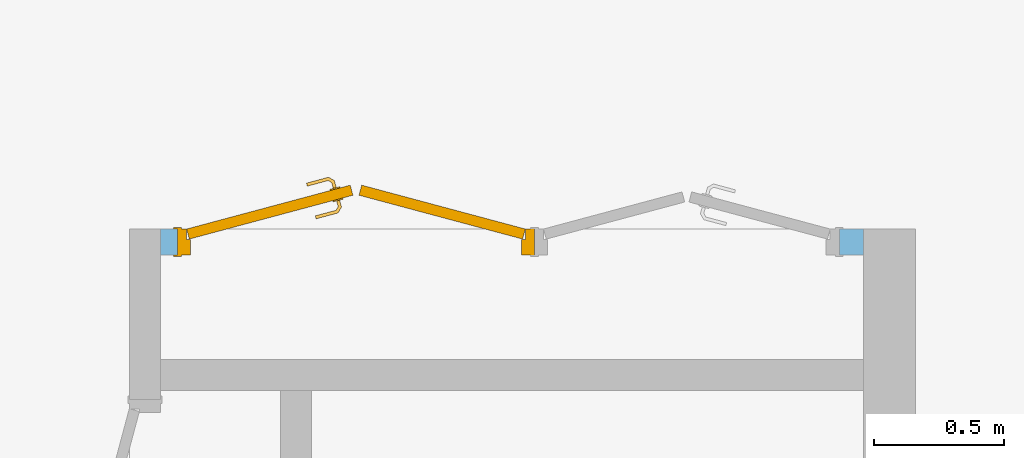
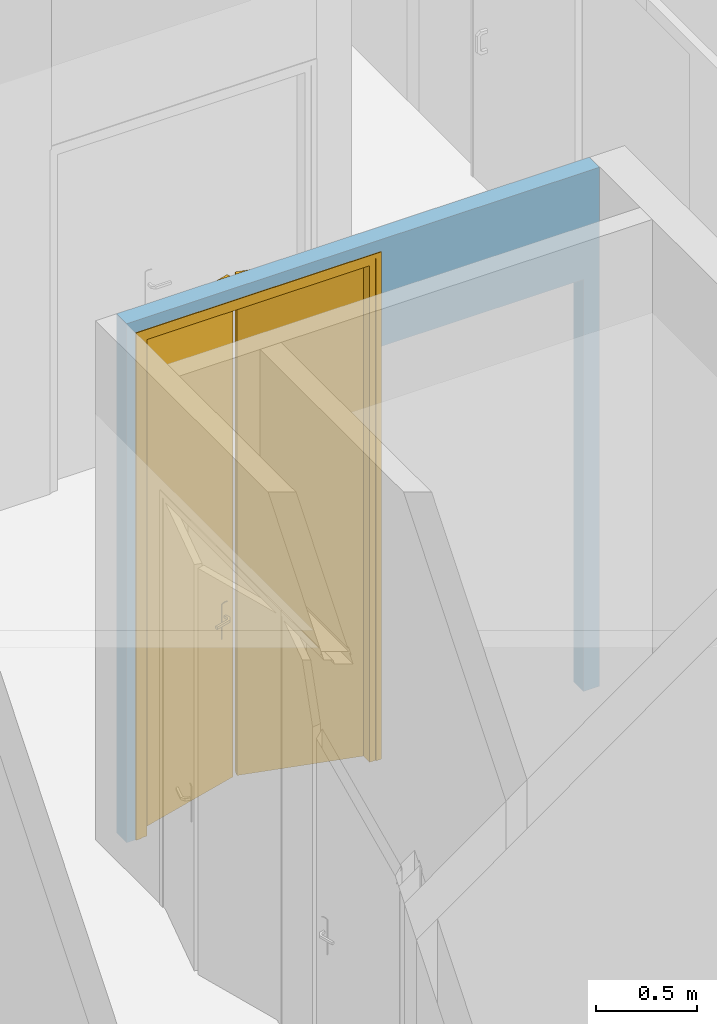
# One storey, part 195 of 240: 1 door, 2 openings, plus 1 element that does not belong to this part.
"""IFC2X3 building model written with IfcOpenShell, lengths in centimetres."""

from ifc_helpers import new_model, entity, si_unit, converted_unit, derived_unit, direction, frame, frame_2d, origin, place, context, subcontext, project, spatial, rectangle, extrude, faceted_brep, source, transform, mapped, material, material_list, layer, layer_set, layer_usage, type_object, type_shapes, element, fill, save


model = new_model("IFC2X3")

# Units and contexts
model_context = context("Model", 3, precision=0.001, world=origin(), true_north=direction((6.12303176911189e-17, 1.0)))
body_context = subcontext(model_context, "Body", "Model", "MODEL_VIEW")
ifc_project = project(units=[si_unit("LENGTHUNIT", "METRE", prefix="CENTI"), si_unit("AREAUNIT", "SQUARE_METRE"), si_unit("VOLUMEUNIT", "CUBIC_METRE"), converted_unit("PLANEANGLEUNIT", "DEGREE", entity("IfcRatioMeasure", 0.0174532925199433), si_unit("PLANEANGLEUNIT", "RADIAN"), dimensions=[0, 0, 0, 0, 0, 0, 0]), si_unit("MASSUNIT", "GRAM", prefix="KILO"), derived_unit("MASSDENSITYUNIT", [(si_unit("MASSUNIT", "GRAM", prefix="KILO"), 1), (si_unit("LENGTHUNIT", "METRE"), -3)]), si_unit("TIMEUNIT", "SECOND"), si_unit("FREQUENCYUNIT", "HERTZ"), si_unit("THERMODYNAMICTEMPERATUREUNIT", "DEGREE_CELSIUS"), derived_unit("THERMALTRANSMITTANCEUNIT", [(si_unit("MASSUNIT", "GRAM", prefix="KILO"), 1), (si_unit("THERMODYNAMICTEMPERATUREUNIT", "KELVIN"), -1), (si_unit("TIMEUNIT", "SECOND"), -3)]), derived_unit("VOLUMETRICFLOWRATEUNIT", [(si_unit("LENGTHUNIT", "METRE"), 3), (si_unit("TIMEUNIT", "SECOND"), -1)]), si_unit("ELECTRICCURRENTUNIT", "AMPERE"), si_unit("ELECTRICVOLTAGEUNIT", "VOLT"), si_unit("POWERUNIT", "WATT"), si_unit("FORCEUNIT", "NEWTON", prefix="KILO"), si_unit("ILLUMINANCEUNIT", "LUX"), si_unit("LUMINOUSFLUXUNIT", "LUMEN"), si_unit("LUMINOUSINTENSITYUNIT", "CANDELA"), derived_unit("USERDEFINED", [(si_unit("MASSUNIT", "GRAM", prefix="KILO"), -1), (si_unit("LENGTHUNIT", "METRE"), -2), (si_unit("TIMEUNIT", "SECOND"), 3), (si_unit("LUMINOUSFLUXUNIT", "LUMEN"), 1)]), derived_unit("LINEARVELOCITYUNIT", [(si_unit("LENGTHUNIT", "METRE"), 1), (si_unit("TIMEUNIT", "SECOND"), -1)]), si_unit("PRESSUREUNIT", "PASCAL"), derived_unit("USERDEFINED", [(si_unit("LENGTHUNIT", "METRE"), -2), (si_unit("MASSUNIT", "GRAM", prefix="KILO"), 1), (si_unit("TIMEUNIT", "SECOND"), -2)])], contexts=[model_context])

# Site, building, storey
site_placement = place(None, frame((-2781.94577612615, 7442.24238424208, 0.0)))
site = spatial("IfcSite", under=ifc_project, at=site_placement, Name="Default", CompositionType="ELEMENT")
building_placement = place(site_placement, origin())
building = spatial("IfcBuilding", under=site, at=building_placement, CompositionType="ELEMENT")
storey_placement = place(building_placement, origin())
storey = spatial("IfcBuildingStorey", under=building, at=storey_placement, Name="N00 - COO", CompositionType="ELEMENT", Elevation=0.0)

# Wall, openings, door
ifc_material_1 = material(Name="01 - Enduit/Plâtre")
ifc_layer_1 = layer(ifc_material_1, 1.3)
ifc_material_2 = material(Name="00 - Isolant")
ifc_layer_2 = layer(ifc_material_2, 7.4)
ifc_layer_3 = layer(ifc_material_1, 1.3)
ifc_layer_set = layer_set([ifc_layer_1, ifc_layer_2, ifc_layer_3], Name="Mur de base:06 - cloisons - Ba13 10cm")
ifc_layer_usage = layer_usage(ifc_layer_set, "AXIS2", "NEGATIVE", 5.0)
wall_type = type_object("IfcWallType", Name="Mur de base:06 - cloisons - Ba13 10cm", PredefinedType="STANDARD", material=ifc_layer_set)
wall_placement = place(building_placement, frame((-10464.6130476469, -2678.07903364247, 0.0)))
wall = element("IfcWallStandardCase", 1, at=wall_placement, inside=storey, type_object=wall_type, material=ifc_layer_usage, Name="Mur de base:06 - cloisons - Ba13 10cm", ObjectType="Mur de base:06 - cloisons - Ba13 10cm", context=body_context, shape_type="SweptSolid", body=[
    extrude(rectangle(XDim=269.778497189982, YDim=10.0000000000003, at=frame_2d((134.889248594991, -1.86517468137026e-14), x_axis=(-1.0, 0.0))), origin(), (0.0, 0.0, 1.0), 313.0),
])
opening_1_placement = place(wall_placement, frame((6.50000000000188, -5.0, 0.0)))
opening_1 = element("IfcOpeningElement", 2, at=opening_1_placement, cuts=wall, Name="Int. Double:PP Placard (1.26m x 2.04m):1", ObjectType="Opening", context=body_context, shape_type="SweptSolid", body=[
    extrude(rectangle(XDim=304.500000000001, YDim=137.0, at=frame_2d((152.250000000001, 68.5000000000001), x_axis=(1.0, 0.0))), frame((0.0, 0.0, 0.0), z_axis=(0.0, 1.0, 0.0), x_axis=(0.0, 0.0, 1.0)), (0.0, 0.0, 1.0), 10.0),
])
opening_2_placement = place(wall_placement, frame((143.500000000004, -5.0, 0.0)))
element("IfcOpeningElement", 3, at=opening_2_placement, cuts=wall, Name="Int. Double:PP Placard (1.10m x 2.50m):1", ObjectType="Opening", context=body_context, shape_type="SweptSolid", body=[
    extrude(rectangle(XDim=248.500000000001, YDim=117.0, at=frame_2d((124.250000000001, 58.5000000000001), x_axis=(1.0, 0.0))), frame((0.0, 0.0, 0.0), z_axis=(0.0, 1.0, 0.0), x_axis=(0.0, 0.0, 1.0)), (0.0, 0.0, 1.0), 10.0),
])
ifc_material_3 = material(Name="Bois - Panneau de porte")
ifc_material_4 = material(Name="Finition Peinture - Blanc satiné")
ifc_material_5 = material(Name="Bois - Cadre de porte")
ifc_material_list_1 = material_list([ifc_material_3, ifc_material_4, ifc_material_5])
ifc_material_list_2 = material_list([ifc_material_3, ifc_material_4, ifc_material_5])
door_style = type_object("IfcDoorStyle", Name="PP Placard (1.26m x 2.04m)", ConstructionType="NOTDEFINED", OperationType="DOUBLE_DOOR_SINGLE_SWING", ParameterTakesPrecedence=False, Sizeable=False, material=ifc_material_list_2)
shared_shape = source(origin(), body_context, "Body", "Brep", [
    faceted_brep([(67.3204548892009, -12.9595346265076, 301.0), (67.3204548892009, -12.9595346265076, 0.0), (4.53527618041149, 3.86370330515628, 0.0), (4.53527618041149, 3.86370330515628, 301.0), (66.2851787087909, -16.8232379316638, 301.0), (3.50000000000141, 0.0, 301.0), (3.50000000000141, 0.0, 0.0), (66.2851787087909, -16.8232379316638, 0.0)], [[[0, 1, 2, 3]], [[4, 5, 6, 7]], [[3, 5, 4, 0]], [[2, 6, 5, 3]], [[1, 7, 6, 2]], [[0, 4, 7, 1]]]),
    faceted_brep([(77.6397857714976, -15.4853373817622, 86.6003983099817), (78.5716374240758, -15.2356484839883, 87.0), (78.5716374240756, -15.2356484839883, 108.0), (77.6397857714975, -15.4853373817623, 108.399601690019), (76.6397857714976, -15.7532865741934, 108.535898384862), (75.6397857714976, -16.0212357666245, 108.399601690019), (74.7079341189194, -16.2709246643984, 108.0), (74.7079341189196, -16.2709246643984, 87.0), (75.6397857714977, -16.0212357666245, 86.6003983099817), (76.6397857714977, -15.7532865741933, 86.464101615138), (77.5103762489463, -15.0023744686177, 108.399601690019), (78.4422279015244, -14.7526855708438, 108.0), (78.4422279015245, -14.7526855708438, 87.0), (77.5103762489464, -15.0023744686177, 86.6003983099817), (76.5103762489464, -15.2703236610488, 86.464101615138), (75.5103762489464, -15.5382728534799, 86.6003983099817), (74.5785245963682, -15.7879617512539, 87.0), (74.5785245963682, -15.7879617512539, 108.0), (75.5103762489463, -15.53827285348, 108.399601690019), (76.5103762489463, -15.2703236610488, 108.535898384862)], [[[0, 1, 2, 3, 4, 5, 6, 7, 8, 9]], [[10, 11, 12, 13, 14, 15, 16, 17, 18, 19]], [[16, 15, 8, 7]], [[8, 15, 14, 9]], [[14, 13, 0, 9]], [[13, 12, 1, 0]], [[2, 1, 12, 11]], [[11, 10, 3, 2]], [[3, 10, 19, 4]], [[19, 18, 5, 4]], [[18, 17, 6, 5]], [[7, 6, 17, 16]]]),
    faceted_brep([(76.4751000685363, -11.1386711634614, 86.6003983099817), (77.4069517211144, -10.8889822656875, 87.0), (77.4069517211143, -10.8889822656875, 108.0), (76.4751000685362, -11.1386711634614, 108.399601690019), (75.4751000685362, -11.4066203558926, 108.535898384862), (74.4751000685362, -11.6745695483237, 108.399601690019), (73.5432484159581, -11.9242584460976, 108.0), (73.5432484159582, -11.9242584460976, 87.0), (74.4751000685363, -11.6745695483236, 86.6003983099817), (75.4751000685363, -11.4066203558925, 86.464101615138), (76.3456905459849, -10.6557082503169, 108.399601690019), (77.277542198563, -10.406019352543, 108.0), (77.2775421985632, -10.406019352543, 87.0), (76.345690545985, -10.6557082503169, 86.6003983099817), (75.3456905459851, -10.923657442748, 86.464101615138), (74.3456905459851, -11.1916066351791, 86.6003983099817), (73.4138388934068, -11.4412955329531, 87.0), (73.4138388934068, -11.4412955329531, 108.0), (74.3456905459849, -11.1916066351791, 108.399601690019), (75.3456905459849, -10.923657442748, 108.535898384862)], [[[0, 1, 2, 3, 4, 5, 6, 7, 8, 9]], [[10, 11, 12, 13, 14, 15, 16, 17, 18, 19]], [[11, 10, 3, 2]], [[3, 10, 19, 4]], [[19, 18, 5, 4]], [[18, 17, 6, 5]], [[7, 6, 17, 16]], [[16, 15, 8, 7]], [[8, 15, 14, 9]], [[14, 13, 0, 9]], [[13, 12, 1, 0]], [[2, 1, 12, 11]]]),
    faceted_brep([(76.4441569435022, -15.805705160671, 100.778044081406), (76.8354145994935, -15.7008679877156, 100.778044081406), (77.2193412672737, -15.5979951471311, 100.699999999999), (77.2193412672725, -15.5979951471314, 99.3000000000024), (76.8354145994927, -15.7008679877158, 99.2219559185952), (76.4441569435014, -15.8057051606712, 99.221955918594), (76.060230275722, -15.9085780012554, 99.2999999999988), (76.0602302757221, -15.9085780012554, 100.7), (76.7758895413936, -18.579454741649, 100.7), (77.1172048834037, -18.3175542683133, 100.778044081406), (79.0827837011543, -19.4523817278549, 100.778044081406), (79.1400107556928, -19.0176990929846, 100.778044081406), (77.4650375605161, -18.050652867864, 100.778044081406), (77.8063529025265, -17.7887523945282, 100.7), (77.8063529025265, -17.7887523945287, 99.3000000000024), (77.4650375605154, -18.0506528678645, 99.2219559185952), (79.1400107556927, -19.0176990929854, 99.2219559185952), (79.0827837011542, -19.4523817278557, 99.221955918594), (77.1172048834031, -18.3175542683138, 99.221955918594), (76.7758895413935, -18.579454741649, 99.2999999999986), (79.0266289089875, -19.8789197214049, 100.7), (79.1961655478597, -18.5911610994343, 100.7), (79.19616554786, -18.5911610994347, 99.3000000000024), (79.0266289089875, -19.878919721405, 99.2999999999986), (87.4921410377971, -17.6105925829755, 99.2999999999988), (87.3892681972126, -17.2266659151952, 99.221955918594), (87.2844310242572, -16.8354082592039, 99.2219559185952), (87.1815581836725, -16.4514815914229, 99.3000000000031), (87.1815581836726, -16.4514815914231, 100.7), (87.284431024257, -16.8354082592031, 100.778044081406), (87.3892681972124, -17.2266659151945, 100.778044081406), (87.4921410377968, -17.6105925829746, 100.699999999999), (82.8836177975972, -18.8454426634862, 100.7), (83.2646394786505, -18.1221825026, 100.78786867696), (83.188861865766, -17.5213213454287, 100.7), (83.1888618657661, -17.5213213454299, 99.3000000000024), (83.2646394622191, -18.1221825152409, 99.2121313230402), (82.883618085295, -18.8454425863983, 99.2999999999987)], [[[0, 1, 2, 3, 4, 5, 6, 7]], [[8, 9, 0, 7]], [[9, 10, 11, 12, 1, 0]], [[12, 13, 2, 1]], [[3, 2, 13, 14]], [[14, 15, 4, 3]], [[15, 16, 17, 18, 5, 4]], [[18, 19, 6, 5]], [[7, 6, 19, 8]], [[20, 10, 9, 8]], [[11, 21, 13, 12]], [[14, 13, 21, 22]], [[22, 16, 15, 14]], [[17, 23, 19, 18]], [[8, 19, 23, 20]], [[24, 25, 26, 27, 28, 29, 30, 31]], [[32, 30, 33]], [[31, 30, 32]], [[10, 20, 32]], [[33, 34, 11]], [[21, 11, 34]], [[34, 29, 28]], [[30, 29, 33]], [[29, 34, 33]], [[10, 32, 33]], [[10, 33, 11]], [[22, 21, 34, 28, 27, 35]], [[35, 26, 36]], [[37, 36, 25]], [[22, 35, 16]], [[35, 27, 26]], [[24, 37, 25]], [[23, 17, 37]], [[37, 17, 36]], [[17, 16, 36]], [[16, 35, 36]], [[25, 36, 26]], [[20, 23, 37, 24, 31, 32]]]),
    faceted_brep([(75.1500617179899, -10.9760760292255, 100.778044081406), (74.7661350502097, -11.07894886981, 100.7), (74.7661350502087, -11.0789488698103, 99.2999999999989), (75.150061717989, -10.9760760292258, 99.221955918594), (75.5413193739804, -10.8712388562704, 99.2219559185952), (75.9252460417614, -10.7683660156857, 99.3000000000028), (75.9252460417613, -10.7683660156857, 100.7), (75.5413193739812, -10.8712388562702, 100.778044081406), (75.3432861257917, -8.59646204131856, 99.3000000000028), (75.3432861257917, -8.59646204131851, 100.7), (74.9167481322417, -8.54030724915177, 100.778044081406), (75.8935176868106, -6.8484927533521, 100.778044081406), (75.6266162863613, -6.50066007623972, 100.778044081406), (74.4820654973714, -8.48308019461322, 100.778044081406), (74.0555275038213, -8.42692540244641, 100.7), (74.0555275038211, -8.42692540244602, 99.2999999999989), (74.4820654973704, -8.48308019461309, 99.221955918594), (75.6266162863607, -6.50066007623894, 99.221955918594), (75.89351768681, -6.84849275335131, 99.2219559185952), (74.9167481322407, -8.54030724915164, 99.2219559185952), (76.1554181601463, -7.1898080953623, 99.3000000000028), (76.1554181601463, -7.18980809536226, 100.7), (75.3647158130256, -6.15934473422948, 100.7), (75.3647158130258, -6.15934473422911, 99.2999999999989), (84.1301502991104, -5.05298505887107, 99.3000000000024), (84.027277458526, -4.66905839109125, 99.2219559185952), (83.9224402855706, -4.2778007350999, 99.221955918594), (83.8195674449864, -3.89387406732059, 99.2999999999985), (83.8195674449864, -3.89387406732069, 100.7), (83.9224402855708, -4.27780073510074, 100.778044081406), (84.0272774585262, -4.66905839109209, 100.778044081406), (84.1301502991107, -5.05298505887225, 100.7), (80.1427830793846, -6.1213968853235, 99.3000000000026), (80.1427842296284, -6.12139657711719, 100.7), (79.9079789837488, -5.56314674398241, 100.78786867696), (79.2217046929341, -5.12586767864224, 100.7), (79.2217045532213, -5.12586771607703, 99.2999999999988), (79.9079790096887, -5.56314674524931, 99.2121313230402)], [[[0, 1, 2, 3, 4, 5, 6, 7]], [[6, 5, 8, 9]], [[9, 10, 7, 6]], [[10, 11, 12, 13, 0, 7]], [[13, 14, 1, 0]], [[2, 1, 14, 15]], [[15, 16, 3, 2]], [[16, 17, 18, 19, 4, 3]], [[19, 8, 5, 4]], [[9, 8, 20, 21]], [[21, 11, 10, 9]], [[12, 22, 14, 13]], [[15, 14, 22, 23]], [[23, 17, 16, 15]], [[18, 20, 8, 19]], [[24, 25, 26, 27, 28, 29, 30, 31]], [[21, 20, 32, 24, 31, 33]], [[33, 30, 34]], [[35, 34, 29]], [[21, 33, 11]], [[33, 31, 30]], [[28, 35, 29]], [[22, 12, 35]], [[35, 12, 34]], [[12, 11, 34]], [[11, 33, 34]], [[29, 34, 30]], [[22, 35, 28, 27, 36, 23]], [[36, 26, 37]], [[27, 26, 36]], [[17, 23, 36]], [[37, 32, 18]], [[20, 18, 32]], [[32, 25, 24]], [[26, 25, 37]], [[25, 32, 37]], [[17, 36, 37]], [[17, 37, 18]]]),
    faceted_brep([(69.6795451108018, -12.9595346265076, 301.0), (132.464723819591, 3.86370330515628, 301.0), (132.464723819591, 3.86370330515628, 0.0), (69.6795451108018, -12.9595346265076, 0.0), (70.7148212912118, -16.8232379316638, 301.0), (70.7148212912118, -16.8232379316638, 0.0), (133.500000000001, 0.0, 0.0), (133.500000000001, 0.0, 301.0)], [[[0, 1, 2, 3]], [[4, 5, 6, 7]], [[1, 0, 4, 7]], [[2, 1, 7, 6]], [[3, 2, 6, 5]], [[0, 3, 5, 4]]]),
    faceted_brep([(0.0, 0.0, 0.0), (0.0, 10.0, 0.0), (5.0, 10.0, 0.0), (5.0, 4.0, 0.0), (3.50000000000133, 4.0, 0.0), (3.50000000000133, 0.0, 0.0), (0.0, 0.0, 304.500000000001), (0.0, 10.0, 304.500000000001), (137.0, 10.0, 304.500000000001), (137.0, 10.0, 0.0), (132.0, 10.0, 0.0), (132.0, 10.0, 299.5), (5.0, 10.0, 299.5), (5.0, 4.0, 299.5), (132.0, 4.0, 299.5), (132.0, 4.0, 0.0), (133.499999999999, 4.0, 0.0), (133.499999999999, 4.0, 301.0), (3.50000000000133, 4.0, 301.0), (3.50000000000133, 0.0, 301.0), (133.499999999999, 0.0, 301.0), (133.499999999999, 0.0, 0.0), (137.0, 0.0, 0.0), (137.0, 0.0, 304.500000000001)], [[[0, 1, 2, 3, 4, 5]], [[1, 0, 6, 7]], [[2, 1, 7, 8, 9, 10, 11, 12]], [[3, 2, 12, 13]], [[4, 3, 13, 14, 15, 16, 17, 18]], [[5, 4, 18, 19]], [[0, 5, 19, 20, 21, 22, 23, 6]], [[8, 23, 22, 9]], [[22, 21, 16, 15, 10, 9]], [[14, 11, 10, 15]], [[20, 17, 16, 21]], [[7, 6, 23, 8]], [[13, 12, 11, 14]], [[19, 18, 17, 20]]]),
    faceted_brep([(1.50000000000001, 10.0, 0.0), (-1.49999999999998, 10.0, 0.0), (-1.49999999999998, 10.5000000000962, 0.0), (1.50000000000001, 10.5000000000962, 0.0), (1.50000000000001, 10.0, 303.0), (135.5, 10.0, 303.0), (135.5, 10.0, 0.0), (138.5, 10.0, 0.0), (138.5, 10.0, 306.0), (-1.5, 10.0, 306.0), (-1.5, 10.5000000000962, 306.0), (138.5, 10.5000000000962, 306.0), (138.5, 10.5000000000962, 0.0), (135.5, 10.5000000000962, 0.0), (135.5, 10.5000000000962, 303.0), (1.50000000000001, 10.5000000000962, 303.0)], [[[0, 1, 2, 3]], [[1, 0, 4, 5, 6, 7, 8, 9]], [[2, 1, 9, 10]], [[3, 2, 10, 11, 12, 13, 14, 15]], [[0, 3, 15, 4]], [[5, 14, 13, 6]], [[6, 13, 12, 7]], [[11, 8, 7, 12]], [[10, 9, 8, 11]], [[4, 15, 14, 5]]]),
    faceted_brep([(-1.49999999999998, -0.500000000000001, 0.0), (1.50000000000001, -0.500000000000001, 0.0), (1.50000000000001, -0.500000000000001, 303.0), (135.5, -0.500000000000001, 303.0), (135.5, -0.500000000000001, 0.0), (138.5, -0.500000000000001, 0.0), (138.5, -0.500000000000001, 306.0), (-1.5, -0.500000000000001, 306.0), (-1.49999999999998, 0.0, 0.0), (-1.5, 0.0, 306.0), (1.50000000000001, 0.0, 0.0), (138.5, 0.0, 306.0), (138.5, 0.0, 0.0), (135.5, 0.0, 0.0), (135.5, 0.0, 303.0), (1.50000000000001, 0.0, 303.0)], [[[0, 1, 2, 3, 4, 5, 6, 7]], [[8, 0, 7, 9]], [[10, 8, 9, 11, 12, 13, 14, 15]], [[1, 10, 15, 2]], [[3, 14, 13, 4]], [[11, 6, 5, 12]], [[9, 7, 6, 11]], [[2, 15, 14, 3]], [[4, 13, 12, 5]], [[1, 0, 8, 10]]]),
])
type_shapes(door_style, [shared_shape])
door_placement = place(opening_1_placement, frame((137.0, 10.0, 0.0), z_axis=(0.0, 0.0, 1.0), x_axis=(-1.0, 0.0, 0.0)))
door = element("IfcDoor", 4, at=door_placement, inside=storey, type_object=door_style, material=ifc_material_list_1, Name="Int. Double:PP Placard (1.26m x 2.04m)", ObjectType="Int. Double:PP Placard (1.26m x 2.04m)", OverallHeight=304.500000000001, OverallWidth=137.0, context=body_context, shape_type="MappedRepresentation", body=[
    mapped(shared_shape, transform((0.0, 0.0, 0.0), scale=1.0)),
])
fill(opening_1, door)

save(model, "model.ifc")
